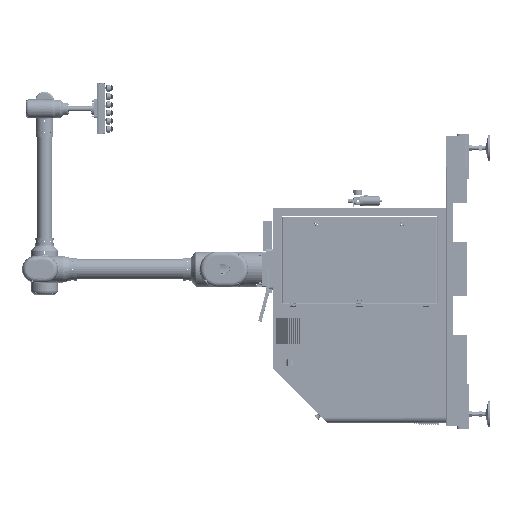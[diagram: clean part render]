
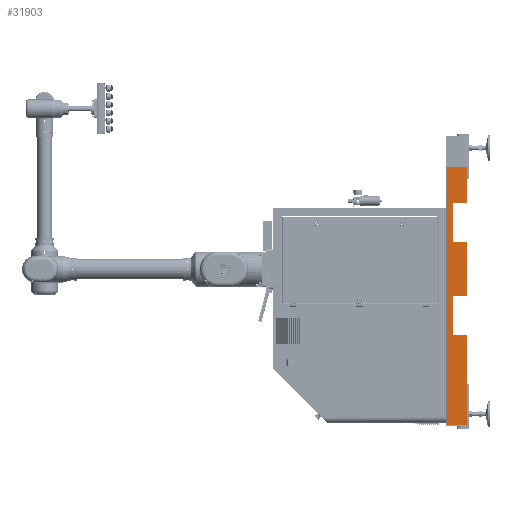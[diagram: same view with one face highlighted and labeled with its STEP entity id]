
A CAD part, left-side view. The second image highlights one B-rep face of the part: STEP entity #31903.
In plain terms, the highlighted planar face has unit normal (-1, 0, 0).
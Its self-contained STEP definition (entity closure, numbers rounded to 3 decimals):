
#2610 = EDGE_CURVE ( 'NONE', #113541, #443270, #412217, .T. ) ;
#3793 = DIRECTION ( 'NONE',  ( 0., 0., 1. ) ) ;
#5205 = CARTESIAN_POINT ( 'NONE',  ( -450., -45., 760. ) ) ;
#12640 = ORIENTED_EDGE ( 'NONE', *, *, #89385, .T. ) ;
#16706 = VECTOR ( 'NONE', #482241, 1000. ) ;
#19491 = DIRECTION ( 'NONE',  ( 0., 0., -1. ) ) ;
#20721 = DIRECTION ( 'NONE',  ( 0., -1., 0. ) ) ;
#23096 = VERTEX_POINT ( 'NONE', #327139 ) ;
#27394 = DIRECTION ( 'NONE',  ( -1., 0., 0. ) ) ;
#30622 = CARTESIAN_POINT ( 'NONE',  ( -450., 1514.344, -754.929 ) ) ;
#31783 = LINE ( 'NONE', #345044, #279860 ) ;
#31903 = ADVANCED_FACE ( 'NONE', ( #456170 ), #426544, .F. ) ;
#37332 = EDGE_CURVE ( 'NONE', #126416, #164181, #428976, .T. ) ;
#39845 = VERTEX_POINT ( 'NONE', #327986 ) ;
#40717 = ORIENTED_EDGE ( 'NONE', *, *, #290626, .T. ) ;
#46059 = CARTESIAN_POINT ( 'NONE',  ( -450., -125., 315.5 ) ) ;
#54795 = EDGE_CURVE ( 'NONE', #130598, #117200, #202509, .T. ) ;
#56970 = DIRECTION ( 'NONE',  ( 0., 1., 0. ) ) ;
#58923 = ORIENTED_EDGE ( 'NONE', *, *, #406741, .F. ) ;
#60563 = EDGE_CURVE ( 'NONE', #332813, #137781, #379929, .T. ) ;
#65328 = CARTESIAN_POINT ( 'NONE',  ( -450., -120., 315.5 ) ) ;
#68260 = DIRECTION ( 'NONE',  ( 0., -1., 0. ) ) ;
#78465 = ORIENTED_EDGE ( 'NONE', *, *, #410961, .F. ) ;
#79784 = VERTEX_POINT ( 'NONE', #252333 ) ;
#81155 = DIRECTION ( 'NONE',  ( -1., 0., 0. ) ) ;
#82735 = DIRECTION ( 'NONE',  ( 0., 0., -1. ) ) ;
#85785 = LINE ( 'NONE', #381520, #121342 ) ;
#86778 = AXIS2_PLACEMENT_3D ( 'NONE', #426951, #276944, #19491 ) ;
#89385 = EDGE_CURVE ( 'NONE', #235671, #164181, #190885, .T. ) ;
#90373 = VECTOR ( 'NONE', #82735, 1000. ) ;
#95089 = VERTEX_POINT ( 'NONE', #146675 ) ;
#113541 = VERTEX_POINT ( 'NONE', #153483 ) ;
#116414 = VERTEX_POINT ( 'NONE', #174898 ) ;
#117200 = VERTEX_POINT ( 'NONE', #445490 ) ;
#118223 = EDGE_CURVE ( 'NONE', #443270, #79784, #440828, .T. ) ;
#119149 = DIRECTION ( 'NONE',  ( 0., 0., -1. ) ) ;
#121342 = VECTOR ( 'NONE', #3793, 1000. ) ;
#123309 = AXIS2_PLACEMENT_3D ( 'NONE', #65328, #27394, #480725 ) ;
#126416 = VERTEX_POINT ( 'NONE', #460626 ) ;
#128454 = CARTESIAN_POINT ( 'NONE',  ( -450., -125., 5.5 ) ) ;
#130598 = VERTEX_POINT ( 'NONE', #439327 ) ;
#137781 = VERTEX_POINT ( 'NONE', #128454 ) ;
#139868 = DIRECTION ( 'NONE',  ( -1., 0., 0. ) ) ;
#145479 = CIRCLE ( 'NONE', #209906, 5. ) ;
#146675 = CARTESIAN_POINT ( 'NONE',  ( -450., -45., 545.5 ) ) ;
#147763 = AXIS2_PLACEMENT_3D ( 'NONE', #311224, #347419, #314459 ) ;
#153483 = CARTESIAN_POINT ( 'NONE',  ( -450., -10., 760. ) ) ;
#157514 = VECTOR ( 'NONE', #479125, 1000. ) ;
#158593 = DIRECTION ( 'NONE',  ( 0., 0., -1. ) ) ;
#161904 = DIRECTION ( 'NONE',  ( 0., 0., -1. ) ) ;
#164181 = VERTEX_POINT ( 'NONE', #360860 ) ;
#166934 = VECTOR ( 'NONE', #20721, 1000. ) ;
#169129 = EDGE_CURVE ( 'NONE', #235671, #79784, #246263, .T. ) ;
#172590 = ORIENTED_EDGE ( 'NONE', *, *, #118223, .T. ) ;
#174105 = DIRECTION ( 'NONE',  ( 0., 0., -1. ) ) ;
#174898 = CARTESIAN_POINT ( 'NONE',  ( -450., -125., 550.5 ) ) ;
#176255 = DIRECTION ( 'NONE',  ( 0., 0., -1. ) ) ;
#176984 = CIRCLE ( 'NONE', #123309, 5. ) ;
#179205 = ORIENTED_EDGE ( 'NONE', *, *, #372116, .F. ) ;
#189823 = DIRECTION ( 'NONE',  ( 0., 1., 0. ) ) ;
#190885 = CIRCLE ( 'NONE', #86778, 5. ) ;
#193239 = LINE ( 'NONE', #451873, #252265 ) ;
#202509 = LINE ( 'NONE', #324169, #166934 ) ;
#209906 = AXIS2_PLACEMENT_3D ( 'NONE', #420874, #81155, #119149 ) ;
#218702 = CARTESIAN_POINT ( 'NONE',  ( -450., -10., 760. ) ) ;
#232845 = CARTESIAN_POINT ( 'NONE',  ( -450., -125., 760. ) ) ;
#234650 = DIRECTION ( 'NONE',  ( 0., -1., 0. ) ) ;
#235671 = VERTEX_POINT ( 'NONE', #450394 ) ;
#239558 = VECTOR ( 'NONE', #158593, 1000. ) ;
#240517 = VECTOR ( 'NONE', #56970, 1000. ) ;
#246263 = LINE ( 'NONE', #428148, #334687 ) ;
#252265 = VECTOR ( 'NONE', #189823, 1000. ) ;
#252333 = CARTESIAN_POINT ( 'NONE',  ( -450., -125., -754.929 ) ) ;
#254609 = CARTESIAN_POINT ( 'NONE',  ( -450., -10., -754.929 ) ) ;
#266667 = ORIENTED_EDGE ( 'NONE', *, *, #2610, .T. ) ;
#276944 = DIRECTION ( 'NONE',  ( -1., 0., 0. ) ) ;
#279860 = VECTOR ( 'NONE', #234650, 1000. ) ;
#287389 = CARTESIAN_POINT ( 'NONE',  ( -450., -125., 760. ) ) ;
#288010 = ORIENTED_EDGE ( 'NONE', *, *, #169129, .F. ) ;
#290626 = EDGE_CURVE ( 'NONE', #23096, #137781, #145479, .T. ) ;
#292586 = LINE ( 'NONE', #232845, #239558 ) ;
#311224 = CARTESIAN_POINT ( 'NONE',  ( -450., 0., 760. ) ) ;
#314459 = DIRECTION ( 'NONE',  ( 0., 0., -1. ) ) ;
#324169 = CARTESIAN_POINT ( 'NONE',  ( -450., 0., 320.5 ) ) ;
#327139 = CARTESIAN_POINT ( 'NONE',  ( -450., -120., 0.5 ) ) ;
#327986 = CARTESIAN_POINT ( 'NONE',  ( -450., -120., 545.5 ) ) ;
#332514 = ORIENTED_EDGE ( 'NONE', *, *, #441464, .F. ) ;
#332813 = VERTEX_POINT ( 'NONE', #46059 ) ;
#334687 = VECTOR ( 'NONE', #174105, 1000. ) ;
#337011 = VECTOR ( 'NONE', #161904, 1000. ) ;
#345044 = CARTESIAN_POINT ( 'NONE',  ( -450., 0., 760. ) ) ;
#347419 = DIRECTION ( 'NONE',  ( 1., 0., 0. ) ) ;
#357499 = VERTEX_POINT ( 'NONE', #479930 ) ;
#358748 = CARTESIAN_POINT ( 'NONE',  ( -450., 0., 545.5 ) ) ;
#358834 = EDGE_LOOP ( 'NONE', ( #288010, #12640, #442570, #464274, #391998, #40717, #453669, #471324, #455766, #179205, #332514, #436407, #58923, #78465, #266667, #172590 ) ) ;
#360860 = CARTESIAN_POINT ( 'NONE',  ( -450., -120., -224.5 ) ) ;
#364433 = LINE ( 'NONE', #358748, #240517 ) ;
#372116 = EDGE_CURVE ( 'NONE', #95089, #130598, #466610, .T. ) ;
#379929 = LINE ( 'NONE', #382896, #90373 ) ;
#381520 = CARTESIAN_POINT ( 'NONE',  ( -450., -45., 760. ) ) ;
#382896 = CARTESIAN_POINT ( 'NONE',  ( -450., -125., 760. ) ) ;
#391998 = ORIENTED_EDGE ( 'NONE', *, *, #486586, .F. ) ;
#406741 = EDGE_CURVE ( 'NONE', #443730, #116414, #292586, .T. ) ;
#410961 = EDGE_CURVE ( 'NONE', #113541, #443730, #31783, .T. ) ;
#412217 = LINE ( 'NONE', #218702, #16706 ) ;
#416926 = CIRCLE ( 'NONE', #435696, 5. ) ;
#417181 = VECTOR ( 'NONE', #68260, 1000. ) ;
#420874 = CARTESIAN_POINT ( 'NONE',  ( -450., -120., 5.5 ) ) ;
#423132 = EDGE_CURVE ( 'NONE', #332813, #117200, #176984, .T. ) ;
#426544 = PLANE ( 'NONE',  #147763 ) ;
#426951 = CARTESIAN_POINT ( 'NONE',  ( -450., -120., -229.5 ) ) ;
#428148 = CARTESIAN_POINT ( 'NONE',  ( -450., -125., 760. ) ) ;
#428976 = LINE ( 'NONE', #439433, #417181 ) ;
#435696 = AXIS2_PLACEMENT_3D ( 'NONE', #479341, #139868, #176255 ) ;
#436407 = ORIENTED_EDGE ( 'NONE', *, *, #486850, .T. ) ;
#439327 = CARTESIAN_POINT ( 'NONE',  ( -450., -45., 320.5 ) ) ;
#439433 = CARTESIAN_POINT ( 'NONE',  ( -450., 0., -224.5 ) ) ;
#440828 = LINE ( 'NONE', #30622, #157514 ) ;
#441464 = EDGE_CURVE ( 'NONE', #39845, #95089, #364433, .T. ) ;
#442570 = ORIENTED_EDGE ( 'NONE', *, *, #37332, .F. ) ;
#443270 = VERTEX_POINT ( 'NONE', #254609 ) ;
#443730 = VERTEX_POINT ( 'NONE', #287389 ) ;
#445490 = CARTESIAN_POINT ( 'NONE',  ( -450., -120., 320.5 ) ) ;
#450394 = CARTESIAN_POINT ( 'NONE',  ( -450., -125., -229.5 ) ) ;
#451873 = CARTESIAN_POINT ( 'NONE',  ( -450., 0., 0.5 ) ) ;
#453669 = ORIENTED_EDGE ( 'NONE', *, *, #60563, .F. ) ;
#455766 = ORIENTED_EDGE ( 'NONE', *, *, #54795, .F. ) ;
#456170 = FACE_OUTER_BOUND ( 'NONE', #358834, .T. ) ;
#460626 = CARTESIAN_POINT ( 'NONE',  ( -450., -45., -224.5 ) ) ;
#464274 = ORIENTED_EDGE ( 'NONE', *, *, #482271, .T. ) ;
#466610 = LINE ( 'NONE', #5205, #337011 ) ;
#471324 = ORIENTED_EDGE ( 'NONE', *, *, #423132, .T. ) ;
#479125 = DIRECTION ( 'NONE',  ( 0., -1., 0. ) ) ;
#479341 = CARTESIAN_POINT ( 'NONE',  ( -450., -120., 550.5 ) ) ;
#479930 = CARTESIAN_POINT ( 'NONE',  ( -450., -45., 0.5 ) ) ;
#480725 = DIRECTION ( 'NONE',  ( 0., 0., -1. ) ) ;
#482241 = DIRECTION ( 'NONE',  ( 0., 0., -1. ) ) ;
#482271 = EDGE_CURVE ( 'NONE', #126416, #357499, #85785, .T. ) ;
#486586 = EDGE_CURVE ( 'NONE', #23096, #357499, #193239, .T. ) ;
#486850 = EDGE_CURVE ( 'NONE', #39845, #116414, #416926, .T. ) ;
